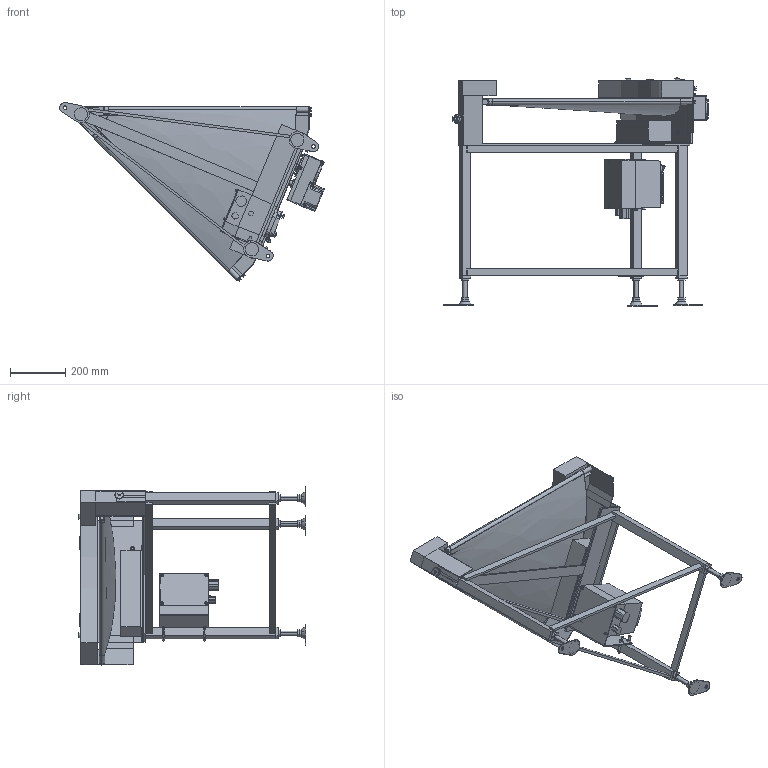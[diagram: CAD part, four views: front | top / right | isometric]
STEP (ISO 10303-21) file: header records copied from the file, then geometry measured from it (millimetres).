
FILE_DESCRIPTION (( 'STEP AP214' ), '1' );
FILE_NAME ('GFBC45-HS600-DC-R.STEP', '2024-01-18T01:35:37', ( '' ), ( '' ), 'SwSTEP 2.0', 'SolidWorks 2017', '' );
FILE_SCHEMA (( 'AUTOMOTIVE_DESIGN' ));
Length unit declared in the file: millimetre
Products named in the file (1): GFBC45-HS600-DC-R
Bounding box: 961.13 x 827.92 x 650.79 mm (x, y, z)
Volume: 17191544.1 mm3; surface area: 3631858.1 mm2
Topology: 65 solids, 66 shells, 1385 faces, 3246 edges, 2085 vertices
Faces by surface type: plane 869, cylinder 408, bspline 44, cone 40, torus 20, sphere 4
Entity records: 47906 total; most frequent: CARTESIAN_POINT 15087, DIRECTION 6686, ORIENTED_EDGE 6444, EDGE_CURVE 3222, AXIS2_PLACEMENT_3D 2283, LINE 2120, VECTOR 2120, VERTEX_POINT 2085
